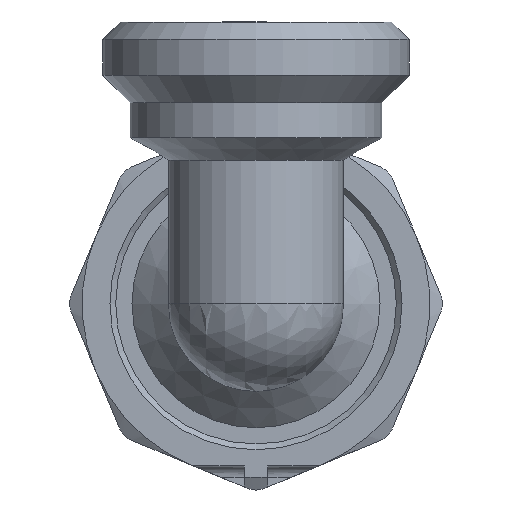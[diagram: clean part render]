
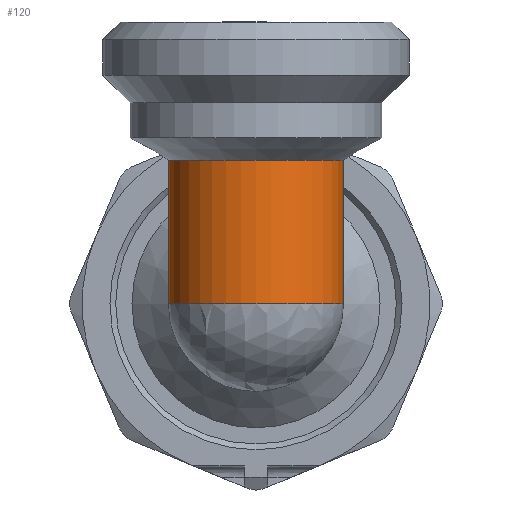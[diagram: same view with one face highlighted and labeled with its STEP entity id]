
A CAD part, front view. The second image highlights one B-rep face of the part: STEP entity #120.
In plain terms, the highlighted cylindrical face has radius 7.55 mm (diameter 15.1 mm), a full revolution.
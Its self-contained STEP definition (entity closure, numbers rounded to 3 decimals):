
#120=ADVANCED_FACE('',(#649,#651),#653,.T.);
#649=FACE_BOUND('',#650,.T.);
#650=EDGE_LOOP('',(#1112,#1113,#1114));
#651=FACE_BOUND('',#652,.T.);
#652=EDGE_LOOP('',(#1115,#1116));
#653=CYLINDRICAL_SURFACE('',#654,7.55);
#654=AXIS2_PLACEMENT_3D('',#655,#656,#657);
#655=CARTESIAN_POINT('',(0.,-29.97,0.));
#656=DIRECTION('',(0.,0.,1.));
#657=DIRECTION('',(0.,1.,0.));
#1112=ORIENTED_EDGE('',*,*,#1281,.T.);
#1113=ORIENTED_EDGE('',*,*,#1282,.T.);
#1114=ORIENTED_EDGE('',*,*,#1283,.T.);
#1115=ORIENTED_EDGE('',*,*,#1279,.F.);
#1116=ORIENTED_EDGE('',*,*,#1278,.F.);
#1278=EDGE_CURVE('',#1531,#1532,#1533,.F.);
#1279=EDGE_CURVE('',#1532,#1531,#1534,.F.);
#1281=EDGE_CURVE('',#1537,#1538,#1539,.T.);
#1282=EDGE_CURVE('',#1538,#1540,#1541,.T.);
#1283=EDGE_CURVE('',#1540,#1537,#1542,.F.);
#1531=VERTEX_POINT('',#3291);
#1532=VERTEX_POINT('',#3292);
#1533=CIRCLE('',#3293,7.55);
#1534=CIRCLE('',#3297,7.55);
#1537=VERTEX_POINT('',#3306);
#1538=VERTEX_POINT('',#3307);
#1539=B_SPLINE_CURVE_WITH_KNOTS('',3,
(#3308,#3309,#3310,#3311,#3312,#3313,#3314,#3315,#3316,#3317,#3318,#3319,#3320,#3321,
#3322,#3323,#3324,#3325,#3326,#3327,#3328,#3329),
.UNSPECIFIED.,.F.,.F.,
(4,1,1,1,1,1,1,1,1,1,1,1,1,1,1,1,1,1,1,4),
(0.,0.103,0.193,0.268,0.339,0.404,
0.466,0.524,0.58,0.632,0.678,
0.722,0.762,0.799,0.833,0.867,
0.901,0.934,0.965,1.),
.UNSPECIFIED.);
#1540=VERTEX_POINT('',#3330);
#1541=B_SPLINE_CURVE_WITH_KNOTS('',3,
(#3331,#3332,#3333,#3334,#3335,#3336,#3337,#3338,#3339,#3340,#3341,#3342,#3343,#3344,
#3345,#3346,#3347,#3348,#3349,#3350,#3351,#3352),
.UNSPECIFIED.,.F.,.F.,
(4,1,1,1,1,1,1,1,1,1,1,1,1,1,1,1,1,1,1,4),
(0.,0.039,0.072,0.1,0.132,0.165,
0.204,0.243,0.287,0.329,0.377,
0.426,0.48,0.538,0.601,0.668,
0.741,0.819,0.906,1.),
.UNSPECIFIED.);
#1542=CIRCLE('',#3353,7.55);
#3291=CARTESIAN_POINT('',(0.,-22.42,12.395));
#3292=CARTESIAN_POINT('',(-7.55,-29.97,12.395));
#3293=AXIS2_PLACEMENT_3D('',#3294,#3295,#3296);
#3294=CARTESIAN_POINT('',(0.,-29.97,12.395));
#3295=DIRECTION('',(0.,0.,-1.));
#3296=DIRECTION('',(-1.,0.,0.));
#3297=AXIS2_PLACEMENT_3D('',#3298,#3299,#3300);
#3298=CARTESIAN_POINT('',(0.,-29.97,12.395));
#3299=DIRECTION('',(0.,0.,-1.));
#3300=DIRECTION('',(0.,1.,0.));
#3306=CARTESIAN_POINT('',(7.55,-29.97,0.));
#3307=CARTESIAN_POINT('',(0.,-22.42,10.55));
#3308=CARTESIAN_POINT('',(7.55,-29.97,0.));
#3309=CARTESIAN_POINT('',(7.55,-29.642,0.458));
#3310=CARTESIAN_POINT('',(7.51,-29.027,1.318));
#3311=CARTESIAN_POINT('',(7.349,-28.179,2.503));
#3312=CARTESIAN_POINT('',(7.125,-27.438,3.538));
#3313=CARTESIAN_POINT('',(6.857,-26.785,4.45));
#3314=CARTESIAN_POINT('',(6.543,-26.183,5.291));
#3315=CARTESIAN_POINT('',(6.19,-25.631,6.063));
#3316=CARTESIAN_POINT('',(5.799,-25.121,6.776));
#3317=CARTESIAN_POINT('',(5.373,-24.654,7.428));
#3318=CARTESIAN_POINT('',(4.927,-24.239,8.008));
#3319=CARTESIAN_POINT('',(4.468,-23.875,8.517));
#3320=CARTESIAN_POINT('',(4.003,-23.561,8.956));
#3321=CARTESIAN_POINT('',(3.533,-23.291,9.334));
#3322=CARTESIAN_POINT('',(3.064,-23.064,9.651));
#3323=CARTESIAN_POINT('',(2.591,-22.872,9.918));
#3324=CARTESIAN_POINT('',(2.105,-22.713,10.141));
#3325=CARTESIAN_POINT('',(1.599,-22.585,10.319));
#3326=CARTESIAN_POINT('',(1.086,-22.493,10.449));
#3327=CARTESIAN_POINT('',(0.553,-22.434,10.531));
#3328=CARTESIAN_POINT('',(0.19,-22.42,10.55));
#3329=CARTESIAN_POINT('',(0.,-22.42,10.55));
#3330=CARTESIAN_POINT('',(-7.55,-29.97,0.));
#3331=CARTESIAN_POINT('',(0.,-22.42,10.55));
#3332=CARTESIAN_POINT('',(-0.212,-22.42,10.55));
#3333=CARTESIAN_POINT('',(-0.606,-22.437,10.527));
#3334=CARTESIAN_POINT('',(-1.142,-22.501,10.436));
#3335=CARTESIAN_POINT('',(-1.628,-22.593,10.309));
#3336=CARTESIAN_POINT('',(-2.093,-22.71,10.145));
#3337=CARTESIAN_POINT('',(-2.591,-22.872,9.919));
#3338=CARTESIAN_POINT('',(-3.089,-23.074,9.637));
#3339=CARTESIAN_POINT('',(-3.598,-23.324,9.286));
#3340=CARTESIAN_POINT('',(-4.079,-23.608,8.89));
#3341=CARTESIAN_POINT('',(-4.55,-23.936,8.431));
#3342=CARTESIAN_POINT('',(-4.995,-24.298,7.925));
#3343=CARTESIAN_POINT('',(-5.426,-24.708,7.352));
#3344=CARTESIAN_POINT('',(-5.833,-25.163,6.718));
#3345=CARTESIAN_POINT('',(-6.217,-25.67,6.009));
#3346=CARTESIAN_POINT('',(-6.571,-26.232,5.224));
#3347=CARTESIAN_POINT('',(-6.889,-26.853,4.356));
#3348=CARTESIAN_POINT('',(-7.158,-27.529,3.41));
#3349=CARTESIAN_POINT('',(-7.372,-28.274,2.369));
#3350=CARTESIAN_POINT('',(-7.516,-29.093,1.225));
#3351=CARTESIAN_POINT('',(-7.55,-29.67,0.42));
#3352=CARTESIAN_POINT('',(-7.55,-29.97,0.));
#3353=AXIS2_PLACEMENT_3D('',#3354,#3355,#3356);
#3354=CARTESIAN_POINT('',(0.,-29.97,0.));
#3355=DIRECTION('',(0.,0.,-1.));
#3356=DIRECTION('',(1.,0.,0.));
